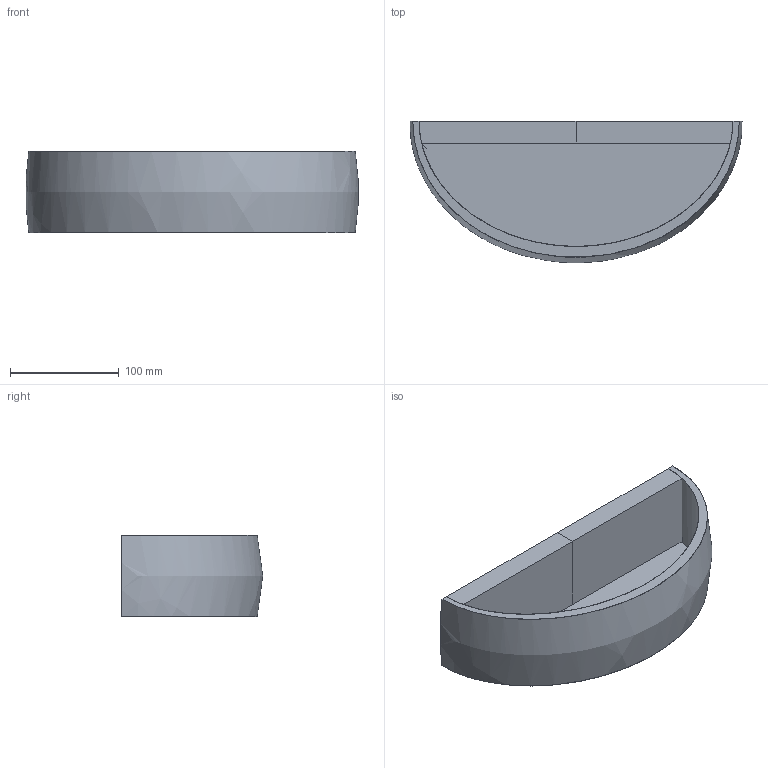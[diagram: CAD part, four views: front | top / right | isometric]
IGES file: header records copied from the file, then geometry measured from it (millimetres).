
Global section: file name: C:\Users\EQUIPO\Desktop\COLECCIONES ACB MODELADAS 3D OK\ALBA\alba-16-3386-30-e14 (IGES).igs; native system: Rhinoceros ( Oct  8 2013 ); preprocessor: Trout Lake IGES 012 Oct  8 2013; date: 190206.185702; units: millimetre
Bounding box: 305.07 x 129.92 x 75 mm (x, y, z)
Surface area: 174515.4 mm2 (no closed solid volume)
Topology: 0 solids, 0 shells, 26 faces, 303 edges, 301 vertices
Faces by surface type: bspline 26
